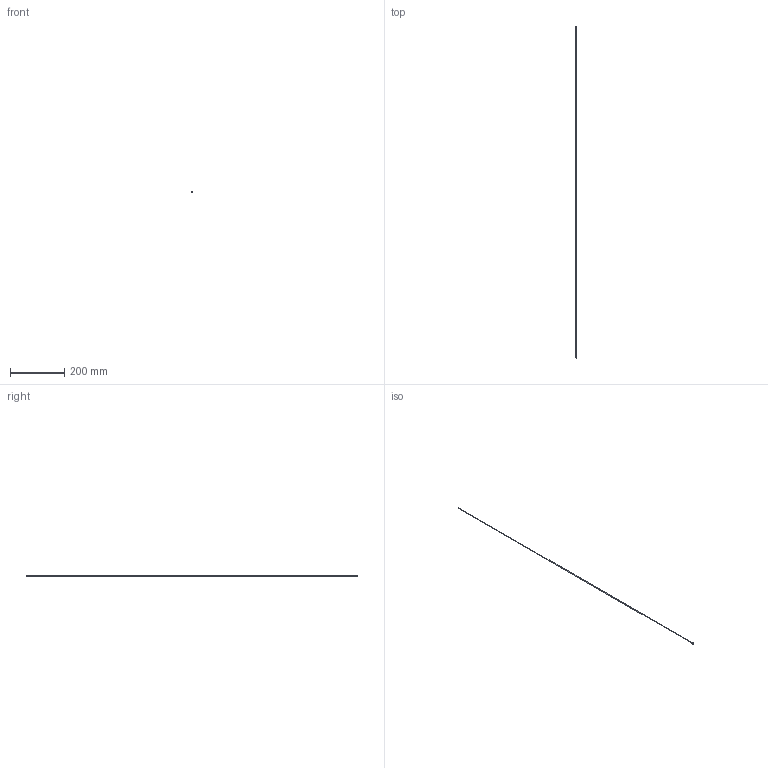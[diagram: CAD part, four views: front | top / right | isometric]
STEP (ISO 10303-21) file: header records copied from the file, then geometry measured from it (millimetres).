
FILE_DESCRIPTION(/* description */ (''),/* implementation_level */ '2;1');
FILE_NAME(/* name */ 'C:/Users/drich/Desktop/JHF090T-48 v1.step',/* time_stamp */ '2020-01-02T20:08:26-06:00',/* author */ (''),/* organization */ (''),/* preprocessor_version */ 'ST-DEVELOPER v18',/* originating_system */ 'Autodesk Translation Framework v8.12.0.6',/* authorisation */ '');
FILE_SCHEMA (('AUTOMOTIVE_DESIGN { 1 0 10303 214 3 1 1 }'));
Length unit declared in the file: inch
Products named in the file (1): JHF090T-48
Bounding box: 4.8 x 1219.2 x 4.8 mm (x, y, z)
Volume: 1504.4 mm3; surface area: 16213.8 mm2
Topology: 1 solids, 1 shells, 10 faces, 25 edges, 19 vertices
Faces by surface type: cylinder 4, plane 4, cone 1, torus 1
Full cylindrical faces by diameter (mm): 1.93 x1, 2.286 x1, 4.75 x1, 4.801 x1
Entity records: 364 total; most frequent: DIRECTION 67, CARTESIAN_POINT 55, ORIENTED_EDGE 50, AXIS2_PLACEMENT_3D 31, EDGE_CURVE 25, CIRCLE 20, VERTEX_POINT 19, EDGE_LOOP 14
